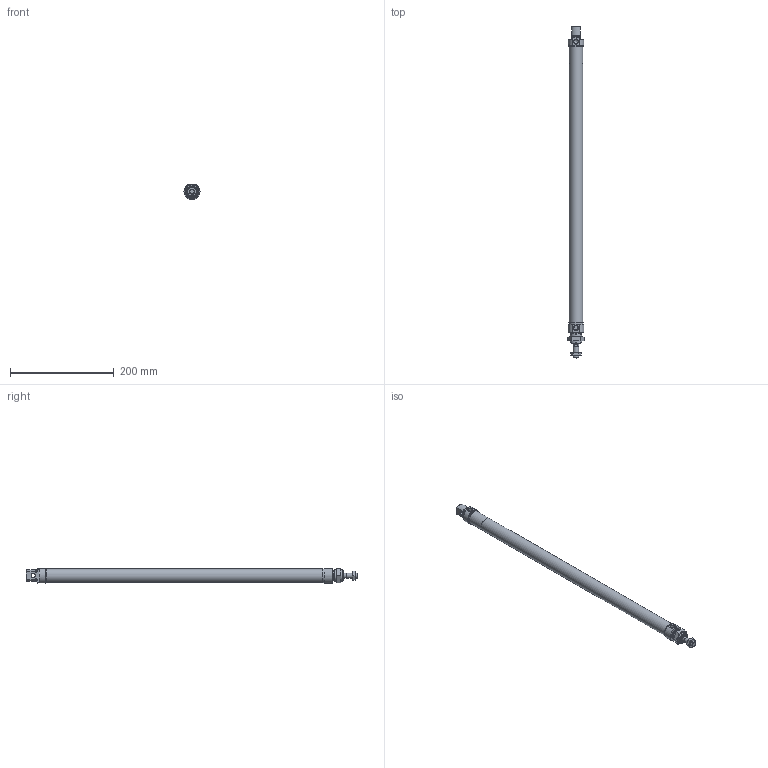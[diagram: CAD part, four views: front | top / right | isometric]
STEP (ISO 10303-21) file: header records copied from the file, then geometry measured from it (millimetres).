
FILE_DESCRIPTION(/* description */ ('Unknown'),/* implementation_level */ '2;1');
FILE_NAME(/* name */ 'RIM 25_500',/* time_stamp */ '2024-08-27T10:14:50+02:00',/* author */ ('Unknown'),/* organization */ ('Unknown'),/* preprocessor_version */ 'ST-DEVELOPER v16.7',/* originating_system */ 'Solid Edge',/* authorisation */ 'Unknown');
FILE_SCHEMA (('AUTOMOTIVE_DESIGN {1 0 10303 214 3 1 1}'));
Length unit declared in the file: millimetre
Products named in the file (7): RIM 25_500; Profilrohr; Kolbenstange; Kit_1; Kit_2; Mutter_1; Mutter_2
Assembly tree (6 placements, depth 2):
  RIM 25_500
    Profilrohr
    Kolbenstange
    Kit_1
    Kit_2
    Mutter_1
    Mutter_2
Bounding box: 31.18 x 640 x 28.45 mm (x, y, z)
Volume: 131331.6 mm3; surface area: 121356.5 mm2
Topology: 6 solids, 6 shells, 136 faces, 289 edges, 178 vertices
Faces by surface type: plane 55, cone 40, cylinder 34, torus 7
Full cylindrical faces by diameter (mm): 8 x1, 8.56 x1, 8.566 x2, 8.647 x1, 10 x2, 10.5 x1, 11.1 x1, 14 x1, 14.1 x1, 16.1 x1, 16.2 x1, 19.7 x1, 20.376 x1, 22 x2, 25 x2, 26.5 x1, 27 x2
Entity records: 4327 total; most frequent: CARTESIAN_POINT 639, DIRECTION 582, ORIENTED_EDGE 452, AXIS2_PLACEMENT_3D 259, EDGE_CURVE 226, FACE_BOUND 211, EDGE_LOOP 210, VERTEX_POINT 169
